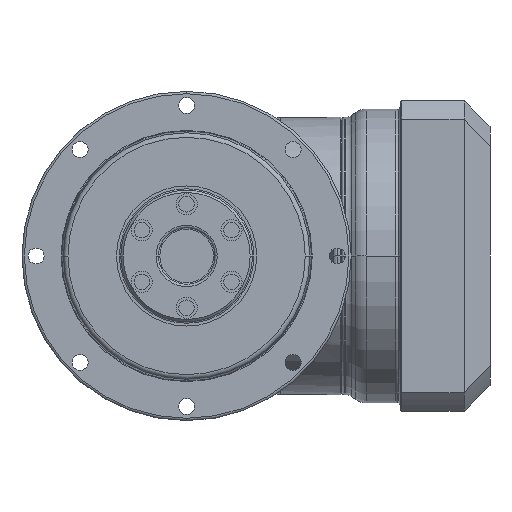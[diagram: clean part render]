
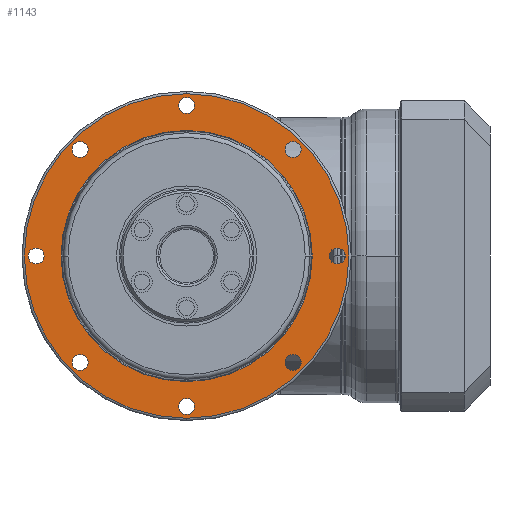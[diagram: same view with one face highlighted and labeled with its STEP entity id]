
A CAD part, left-side view. The second image highlights one B-rep face of the part: STEP entity #1143.
In plain terms, the highlighted planar face has unit normal (-1, 0, 0).
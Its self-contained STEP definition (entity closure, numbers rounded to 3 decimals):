
#249=CARTESIAN_POINT('',(11.5,32.,0.));
#250=DIRECTION('',(-1.,0.,0.));
#251=DIRECTION('',(0.,0.,1.));
#252=AXIS2_PLACEMENT_3D('',#249,#250,#251);
#254=CARTESIAN_POINT('',(11.5,32.,0.));
#255=DIRECTION('',(-1.,0.,0.));
#256=DIRECTION('',(0.,0.,-1.));
#257=AXIS2_PLACEMENT_3D('',#254,#255,#256);
#259=CARTESIAN_POINT('',(11.5,22.627,22.627));
#260=DIRECTION('',(-1.,0.,0.));
#261=DIRECTION('',(0.,-0.707,0.707));
#262=AXIS2_PLACEMENT_3D('',#259,#260,#261);
#264=CARTESIAN_POINT('',(11.5,22.627,22.627));
#265=DIRECTION('',(-1.,0.,0.));
#266=DIRECTION('',(0.,0.707,-0.707));
#267=AXIS2_PLACEMENT_3D('',#264,#265,#266);
#269=CARTESIAN_POINT('',(11.5,0.,32.));
#270=DIRECTION('',(-1.,0.,0.));
#271=DIRECTION('',(0.,-1.,0.));
#272=AXIS2_PLACEMENT_3D('',#269,#270,#271);
#274=CARTESIAN_POINT('',(11.5,0.,32.));
#275=DIRECTION('',(-1.,0.,0.));
#276=DIRECTION('',(0.,1.,0.));
#277=AXIS2_PLACEMENT_3D('',#274,#275,#276);
#279=CARTESIAN_POINT('',(11.5,-22.627,22.627));
#280=DIRECTION('',(-1.,0.,0.));
#281=DIRECTION('',(0.,-0.707,-0.707));
#282=AXIS2_PLACEMENT_3D('',#279,#280,#281);
#284=CARTESIAN_POINT('',(11.5,-22.627,22.627));
#285=DIRECTION('',(-1.,0.,0.));
#286=DIRECTION('',(0.,0.707,0.707));
#287=AXIS2_PLACEMENT_3D('',#284,#285,#286);
#289=CARTESIAN_POINT('',(11.5,-32.,0.));
#290=DIRECTION('',(-1.,0.,0.));
#291=DIRECTION('',(0.,0.,-1.));
#292=AXIS2_PLACEMENT_3D('',#289,#290,#291);
#294=CARTESIAN_POINT('',(11.5,-32.,0.));
#295=DIRECTION('',(-1.,0.,0.));
#296=DIRECTION('',(0.,0.,1.));
#297=AXIS2_PLACEMENT_3D('',#294,#295,#296);
#299=CARTESIAN_POINT('',(11.5,-22.627,-22.627));
#300=DIRECTION('',(-1.,0.,0.));
#301=DIRECTION('',(0.,0.707,-0.707));
#302=AXIS2_PLACEMENT_3D('',#299,#300,#301);
#304=CARTESIAN_POINT('',(11.5,-22.627,-22.627));
#305=DIRECTION('',(-1.,0.,0.));
#306=DIRECTION('',(0.,-0.707,0.707));
#307=AXIS2_PLACEMENT_3D('',#304,#305,#306);
#309=CARTESIAN_POINT('',(11.5,0.,-32.));
#310=DIRECTION('',(-1.,0.,0.));
#311=DIRECTION('',(0.,1.,0.));
#312=AXIS2_PLACEMENT_3D('',#309,#310,#311);
#314=CARTESIAN_POINT('',(11.5,0.,-32.));
#315=DIRECTION('',(-1.,0.,0.));
#316=DIRECTION('',(0.,-1.,0.));
#317=AXIS2_PLACEMENT_3D('',#314,#315,#316);
#319=CARTESIAN_POINT('',(11.5,22.627,-22.627));
#320=DIRECTION('',(-1.,0.,0.));
#321=DIRECTION('',(0.,0.707,0.707));
#322=AXIS2_PLACEMENT_3D('',#319,#320,#321);
#324=CARTESIAN_POINT('',(11.5,22.627,-22.627));
#325=DIRECTION('',(-1.,0.,0.));
#326=DIRECTION('',(0.,-0.707,-0.707));
#327=AXIS2_PLACEMENT_3D('',#324,#325,#326);
#329=CARTESIAN_POINT('',(11.5,0.,0.));
#330=DIRECTION('',(-1.,0.,0.));
#331=DIRECTION('',(0.,1.,0.));
#332=AXIS2_PLACEMENT_3D('',#329,#330,#331);
#334=CARTESIAN_POINT('',(11.5,0.,0.));
#335=DIRECTION('',(-1.,0.,0.));
#336=DIRECTION('',(0.,-1.,0.));
#337=AXIS2_PLACEMENT_3D('',#334,#335,#336);
#339=CARTESIAN_POINT('',(11.5,0.,0.));
#340=DIRECTION('',(-1.,0.,0.));
#341=DIRECTION('',(0.,0.,-1.));
#342=AXIS2_PLACEMENT_3D('',#339,#340,#341);
#344=CARTESIAN_POINT('',(11.5,0.,0.));
#345=DIRECTION('',(-1.,0.,0.));
#346=DIRECTION('',(0.,0.,1.));
#347=AXIS2_PLACEMENT_3D('',#344,#345,#346);
#669=CARTESIAN_POINT('',(11.5,32.,1.7));
#670=CARTESIAN_POINT('',(11.5,32.,-1.7));
#671=VERTEX_POINT('',#669);
#672=VERTEX_POINT('',#670);
#677=CARTESIAN_POINT('',(11.5,21.425,23.829));
#678=CARTESIAN_POINT('',(11.5,23.829,21.425));
#679=VERTEX_POINT('',#677);
#680=VERTEX_POINT('',#678);
#685=CARTESIAN_POINT('',(11.5,-1.7,32.));
#686=CARTESIAN_POINT('',(11.5,1.7,32.));
#687=VERTEX_POINT('',#685);
#688=VERTEX_POINT('',#686);
#693=CARTESIAN_POINT('',(11.5,-23.829,21.425));
#694=CARTESIAN_POINT('',(11.5,-21.425,23.829));
#695=VERTEX_POINT('',#693);
#696=VERTEX_POINT('',#694);
#701=CARTESIAN_POINT('',(11.5,-32.,-1.7));
#702=CARTESIAN_POINT('',(11.5,-32.,1.7));
#703=VERTEX_POINT('',#701);
#704=VERTEX_POINT('',#702);
#709=CARTESIAN_POINT('',(11.5,-21.425,-23.829));
#710=CARTESIAN_POINT('',(11.5,-23.829,-21.425));
#711=VERTEX_POINT('',#709);
#712=VERTEX_POINT('',#710);
#717=CARTESIAN_POINT('',(11.5,1.7,-32.));
#718=CARTESIAN_POINT('',(11.5,-1.7,-32.));
#719=VERTEX_POINT('',#717);
#720=VERTEX_POINT('',#718);
#725=CARTESIAN_POINT('',(11.5,23.829,-21.425));
#726=CARTESIAN_POINT('',(11.5,21.425,-23.829));
#727=VERTEX_POINT('',#725);
#728=VERTEX_POINT('',#726);
#741=CARTESIAN_POINT('',(11.5,26.7,0.));
#742=CARTESIAN_POINT('',(11.5,-26.7,0.));
#743=VERTEX_POINT('',#741);
#744=VERTEX_POINT('',#742);
#801=CARTESIAN_POINT('',(11.5,0.,-34.5));
#802=CARTESIAN_POINT('',(11.5,0.,34.5));
#803=VERTEX_POINT('',#801);
#804=VERTEX_POINT('',#802);
#1079=CARTESIAN_POINT('',(11.5,0.,0.));
#1080=DIRECTION('',(-1.,0.,0.));
#1081=DIRECTION('',(0.,0.,1.));
#1082=AXIS2_PLACEMENT_3D('',#1079,#1080,#1081);
#1083=PLANE('',#1082);
#1085=ORIENTED_EDGE('',*,*,#1084,.F.);
#1087=ORIENTED_EDGE('',*,*,#1086,.F.);
#1088=EDGE_LOOP('',(#1085,#1087));
#1089=FACE_OUTER_BOUND('',#1088,.F.);
#1090=ORIENTED_EDGE('',*,*,#1069,.T.);
#1092=ORIENTED_EDGE('',*,*,#1091,.T.);
#1093=EDGE_LOOP('',(#1090,#1092));
#1094=FACE_BOUND('',#1093,.F.);
#1096=ORIENTED_EDGE('',*,*,#1095,.T.);
#1098=ORIENTED_EDGE('',*,*,#1097,.T.);
#1099=EDGE_LOOP('',(#1096,#1098));
#1100=FACE_BOUND('',#1099,.F.);
#1102=ORIENTED_EDGE('',*,*,#1101,.T.);
#1104=ORIENTED_EDGE('',*,*,#1103,.T.);
#1105=EDGE_LOOP('',(#1102,#1104));
#1106=FACE_BOUND('',#1105,.F.);
#1108=ORIENTED_EDGE('',*,*,#1107,.T.);
#1110=ORIENTED_EDGE('',*,*,#1109,.T.);
#1111=EDGE_LOOP('',(#1108,#1110));
#1112=FACE_BOUND('',#1111,.F.);
#1114=ORIENTED_EDGE('',*,*,#1113,.T.);
#1116=ORIENTED_EDGE('',*,*,#1115,.T.);
#1117=EDGE_LOOP('',(#1114,#1116));
#1118=FACE_BOUND('',#1117,.F.);
#1120=ORIENTED_EDGE('',*,*,#1119,.T.);
#1122=ORIENTED_EDGE('',*,*,#1121,.T.);
#1123=EDGE_LOOP('',(#1120,#1122));
#1124=FACE_BOUND('',#1123,.F.);
#1126=ORIENTED_EDGE('',*,*,#1125,.T.);
#1128=ORIENTED_EDGE('',*,*,#1127,.T.);
#1129=EDGE_LOOP('',(#1126,#1128));
#1130=FACE_BOUND('',#1129,.F.);
#1132=ORIENTED_EDGE('',*,*,#1131,.T.);
#1134=ORIENTED_EDGE('',*,*,#1133,.T.);
#1135=EDGE_LOOP('',(#1132,#1134));
#1136=FACE_BOUND('',#1135,.F.);
#1138=ORIENTED_EDGE('',*,*,#1137,.T.);
#1140=ORIENTED_EDGE('',*,*,#1139,.T.);
#1141=EDGE_LOOP('',(#1138,#1140));
#1142=FACE_BOUND('',#1141,.F.);
#1143=ADVANCED_FACE('',(#1089,#1094,#1100,#1106,#1112,#1118,#1124,#1130,#1136,
#1142),#1083,.T.);
#253=CIRCLE('',#252,1.7);
#258=CIRCLE('',#257,1.7);
#263=CIRCLE('',#262,1.7);
#268=CIRCLE('',#267,1.7);
#273=CIRCLE('',#272,1.7);
#278=CIRCLE('',#277,1.7);
#283=CIRCLE('',#282,1.7);
#288=CIRCLE('',#287,1.7);
#293=CIRCLE('',#292,1.7);
#298=CIRCLE('',#297,1.7);
#303=CIRCLE('',#302,1.7);
#308=CIRCLE('',#307,1.7);
#313=CIRCLE('',#312,1.7);
#318=CIRCLE('',#317,1.7);
#323=CIRCLE('',#322,1.7);
#328=CIRCLE('',#327,1.7);
#333=CIRCLE('',#332,26.7);
#338=CIRCLE('',#337,26.7);
#343=CIRCLE('',#342,34.5);
#348=CIRCLE('',#347,34.5);
#1069=EDGE_CURVE('',#671,#672,#253,.T.);
#1084=EDGE_CURVE('',#803,#804,#343,.T.);
#1086=EDGE_CURVE('',#804,#803,#348,.T.);
#1091=EDGE_CURVE('',#672,#671,#258,.T.);
#1095=EDGE_CURVE('',#679,#680,#263,.T.);
#1097=EDGE_CURVE('',#680,#679,#268,.T.);
#1101=EDGE_CURVE('',#687,#688,#273,.T.);
#1103=EDGE_CURVE('',#688,#687,#278,.T.);
#1107=EDGE_CURVE('',#695,#696,#283,.T.);
#1109=EDGE_CURVE('',#696,#695,#288,.T.);
#1113=EDGE_CURVE('',#703,#704,#293,.T.);
#1115=EDGE_CURVE('',#704,#703,#298,.T.);
#1119=EDGE_CURVE('',#711,#712,#303,.T.);
#1121=EDGE_CURVE('',#712,#711,#308,.T.);
#1125=EDGE_CURVE('',#719,#720,#313,.T.);
#1127=EDGE_CURVE('',#720,#719,#318,.T.);
#1131=EDGE_CURVE('',#727,#728,#323,.T.);
#1133=EDGE_CURVE('',#728,#727,#328,.T.);
#1137=EDGE_CURVE('',#743,#744,#333,.T.);
#1139=EDGE_CURVE('',#744,#743,#338,.T.);
